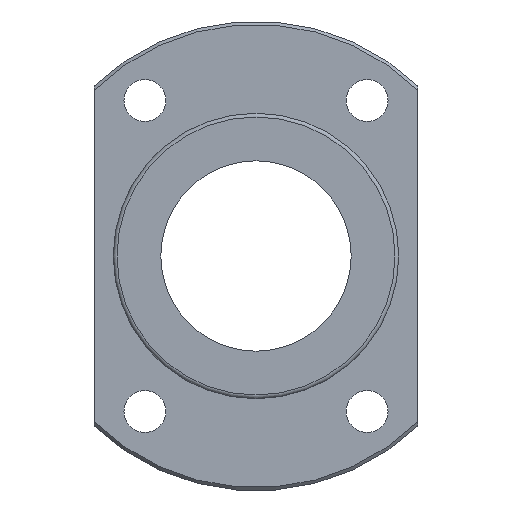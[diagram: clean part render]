
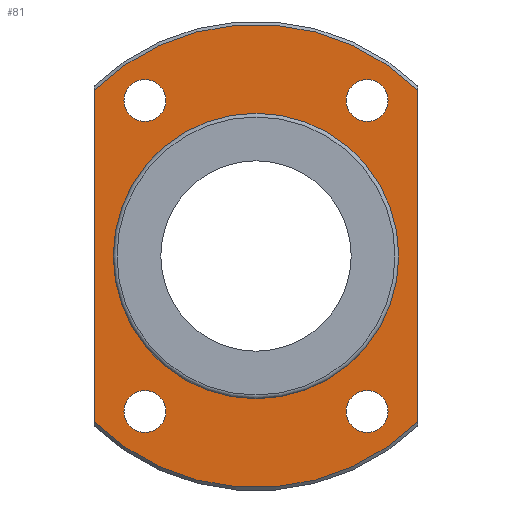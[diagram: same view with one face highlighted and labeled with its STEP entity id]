
A CAD part, left-side view. The second image highlights one B-rep face of the part: STEP entity #81.
In plain terms, the highlighted planar face has unit normal (-1, 0, 0).
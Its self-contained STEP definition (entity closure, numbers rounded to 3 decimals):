
#81=ADVANCED_FACE('',(#126,#127,#128,#129,#130,#131),#132,.T.);
#126=FACE_BOUND('',#225,.T.);
#127=FACE_BOUND('',#226,.T.);
#128=FACE_BOUND('',#227,.T.);
#129=FACE_BOUND('',#228,.T.);
#130=FACE_BOUND('',#229,.T.);
#131=FACE_OUTER_BOUND('',#230,.T.);
#132=PLANE('',#231);
#225=EDGE_LOOP('',(#358));
#226=EDGE_LOOP('',(#359));
#227=EDGE_LOOP('',(#360));
#228=EDGE_LOOP('',(#361));
#229=EDGE_LOOP('',(#362));
#230=EDGE_LOOP('',(#363,#364,#365,#366));
#231=AXIS2_PLACEMENT_3D('',#367,#368,#369);
#358=ORIENTED_EDGE('',*,*,#535,.F.);
#359=ORIENTED_EDGE('',*,*,#536,.F.);
#360=ORIENTED_EDGE('',*,*,#537,.F.);
#361=ORIENTED_EDGE('',*,*,#538,.F.);
#362=ORIENTED_EDGE('',*,*,#539,.F.);
#363=ORIENTED_EDGE('',*,*,#520,.T.);
#364=ORIENTED_EDGE('',*,*,#540,.T.);
#365=ORIENTED_EDGE('',*,*,#541,.T.);
#366=ORIENTED_EDGE('',*,*,#510,.T.);
#367=CARTESIAN_POINT('',(-10.0,29.35,0.));
#368=DIRECTION('',(-1.0,0.0,0.));
#369=DIRECTION('',(0.,0.0,1.0));
#510=EDGE_CURVE('',#562,#563,#564,.T.);
#520=EDGE_CURVE('',#563,#580,#582,.T.);
#535=EDGE_CURVE('',#607,#607,#608,.T.);
#536=EDGE_CURVE('',#609,#609,#610,.T.);
#537=EDGE_CURVE('',#611,#611,#612,.T.);
#538=EDGE_CURVE('',#613,#613,#614,.T.);
#539=EDGE_CURVE('',#615,#615,#616,.T.);
#540=EDGE_CURVE('',#580,#617,#618,.T.);
#541=EDGE_CURVE('',#617,#562,#619,.T.);
#562=VERTEX_POINT('',#658);
#563=VERTEX_POINT('',#659);
#564=LINE('',#660,#661);
#580=VERTEX_POINT('',#692);
#582=CIRCLE('',#697,36.5);
#607=VERTEX_POINT('',#730);
#608=CIRCLE('',#731,3.3);
#609=VERTEX_POINT('',#732);
#610=CIRCLE('',#733,3.3);
#611=VERTEX_POINT('',#734);
#612=CIRCLE('',#735,3.3);
#613=VERTEX_POINT('',#736);
#614=CIRCLE('',#737,3.3);
#615=VERTEX_POINT('',#738);
#616=CIRCLE('',#739,22.2);
#617=VERTEX_POINT('',#740);
#618=LINE('',#741,#742);
#619=CIRCLE('',#743,36.5);
#658=CARTESIAN_POINT('',(-10.0,25.5,26.115));
#659=CARTESIAN_POINT('',(-10.0,25.5,-26.115));
#660=CARTESIAN_POINT('',(-10.0,25.5,0.));
#661=VECTOR('',#786,1.0);
#692=CARTESIAN_POINT('',(-10.0,-25.5,-26.115));
#697=AXIS2_PLACEMENT_3D('',#793,#794,#795);
#730=CARTESIAN_POINT('',(-10.0,-17.5,-21.2));
#731=AXIS2_PLACEMENT_3D('',#828,#829,#830);
#732=CARTESIAN_POINT('',(-10.0,17.5,-21.2));
#733=AXIS2_PLACEMENT_3D('',#831,#832,#833);
#734=CARTESIAN_POINT('',(-10.0,17.5,27.8));
#735=AXIS2_PLACEMENT_3D('',#834,#835,#836);
#736=CARTESIAN_POINT('',(-10.0,-17.5,27.8));
#737=AXIS2_PLACEMENT_3D('',#837,#838,#839);
#738=CARTESIAN_POINT('',(-10.0,22.2,0.));
#739=AXIS2_PLACEMENT_3D('',#840,#841,#842);
#740=CARTESIAN_POINT('',(-10.0,-25.5,26.115));
#741=CARTESIAN_POINT('',(-10.0,-25.5,0.));
#742=VECTOR('',#843,1.0);
#743=AXIS2_PLACEMENT_3D('',#844,#845,#846);
#786=DIRECTION('',(0.,0.,-1.0));
#793=CARTESIAN_POINT('',(-10.0,0.0,0.));
#794=DIRECTION('',(-1.0,0.0,0.));
#795=DIRECTION('',(0.0,1.0,0.0));
#828=CARTESIAN_POINT('',(-10.0,-17.5,-24.5));
#829=DIRECTION('',(-1.0,0.0,0.));
#830=DIRECTION('',(0.,0.0,1.0));
#831=CARTESIAN_POINT('',(-10.0,17.5,-24.5));
#832=DIRECTION('',(-1.0,0.0,0.));
#833=DIRECTION('',(0.,0.0,1.0));
#834=CARTESIAN_POINT('',(-10.0,17.5,24.5));
#835=DIRECTION('',(-1.0,0.0,0.));
#836=DIRECTION('',(0.,0.0,1.0));
#837=CARTESIAN_POINT('',(-10.0,-17.5,24.5));
#838=DIRECTION('',(-1.0,0.0,0.));
#839=DIRECTION('',(0.,0.0,1.0));
#840=CARTESIAN_POINT('',(-10.0,0.0,0.));
#841=DIRECTION('',(-1.0,0.0,0.));
#842=DIRECTION('',(0.0,1.0,0.0));
#843=DIRECTION('',(0.,0.,1.0));
#844=CARTESIAN_POINT('',(-10.0,0.0,0.));
#845=DIRECTION('',(-1.0,0.0,0.));
#846=DIRECTION('',(0.0,1.0,0.0));
